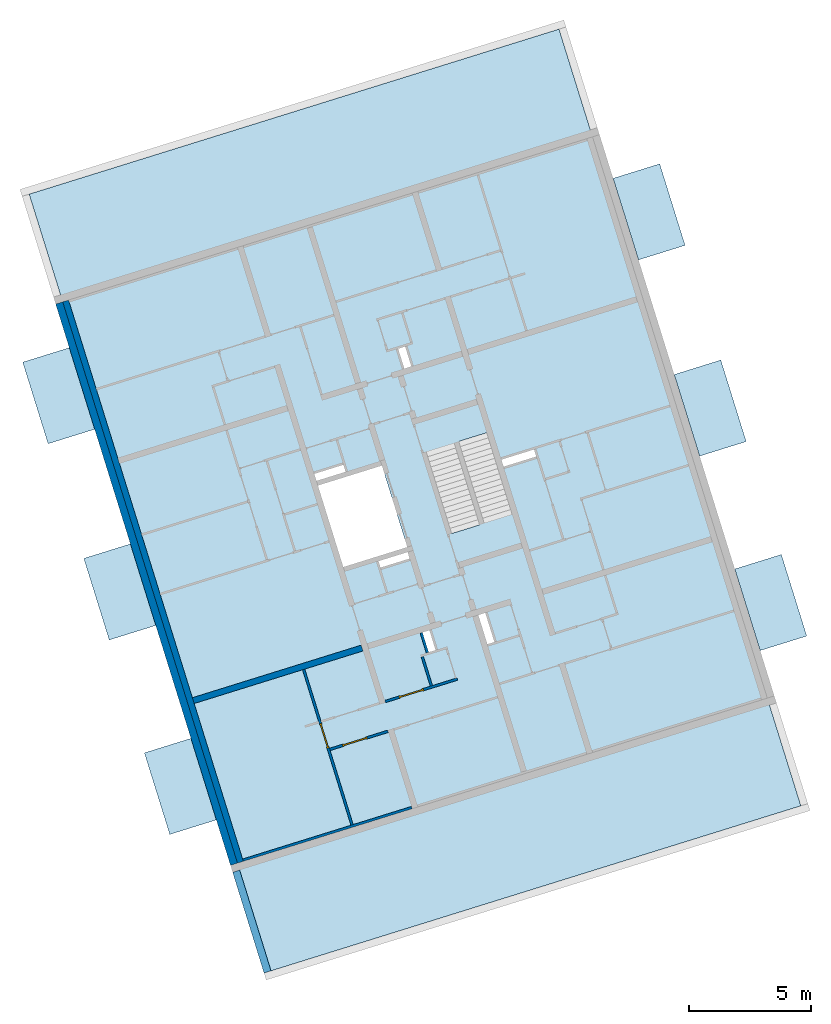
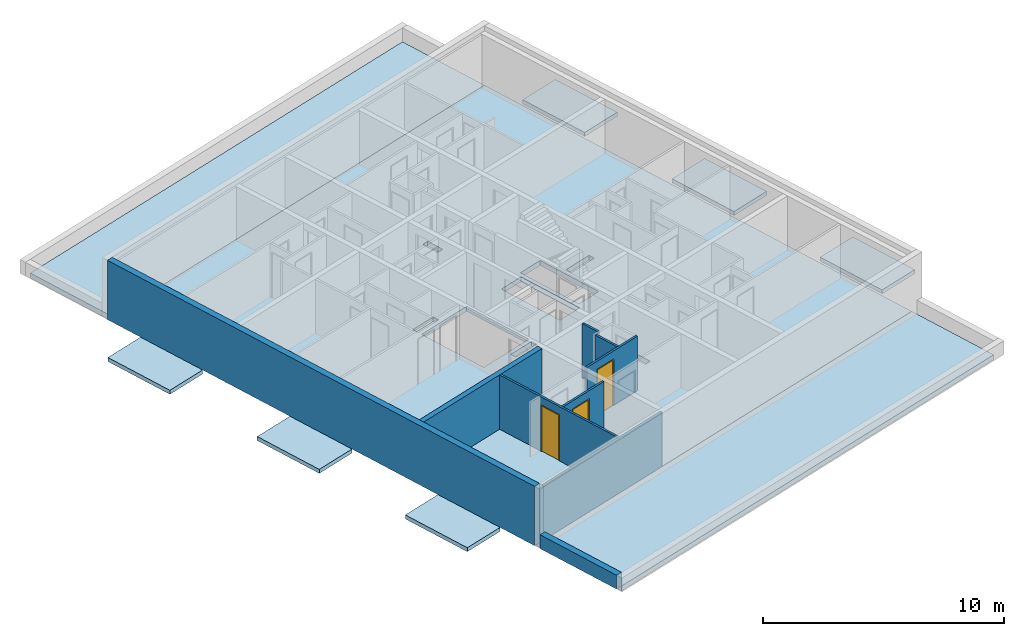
# One storey, part 1 of 9: 10 walls, 9 slabs, 3 doors, 12 openings.
"""IFC4 building model written with IfcOpenShell, lengths in metres."""

from ifc_helpers import new_model, entity, si_unit, converted_unit, direction, frame, origin, place, context, subcontext, project, spatial, indexed_curve, outline, extrude, polygons, source, transform, mapped, material, constituent, constituent_set, type_object, type_shapes, element, fill, save


model = new_model("IFC4")

# Units and contexts
model_context = context("Model", 3, precision=1e-05, world=origin(), true_north=direction((6.12323399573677e-17, 1.0)))
body_context = subcontext(model_context, "Body", "Model", "MODEL_VIEW")
ifc_project = project(units=[si_unit("LENGTHUNIT", "METRE"), si_unit("AREAUNIT", "SQUARE_METRE"), si_unit("VOLUMEUNIT", "CUBIC_METRE"), converted_unit("PLANEANGLEUNIT", "DEGREE", entity("IfcPlaneAngleMeasure", 0.0174532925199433), si_unit("PLANEANGLEUNIT", "RADIAN"), dimensions=[0, 0, 0, 0, 0, 0, 0])], contexts=[model_context])

# Site, building, storey
site_placement = place(None, frame((13.1347999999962, 11.9886000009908, 0.0), z_axis=(0.0, 0.0, 1.0), x_axis=(0.954770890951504, 0.297342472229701, 0.0)))
site = spatial("IfcSite", under=ifc_project, at=site_placement, Name="Schiehaven", CompositionType="ELEMENT")
building_placement = place(site_placement, origin())
building = spatial("IfcBuilding", under=site, at=building_placement, Name="VORM huis", CompositionType="ELEMENT")
storey_placement = place(building_placement, frame((0.0, 0.0, 6.9)))
storey = spatial("IfcBuildingStorey", under=building, at=storey_placement, Name="02 tweede verdieping", CompositionType="ELEMENT", Elevation=6.9)

# Slab, openings
ifc_material_1 = material(Name="beton_gewapend_ihw", Category="Miscellaneous")
slab_type_1 = type_object("IfcSlabType", Name="Floor:28_FL_skelet_vloer 250mm", PredefinedType="FLOOR", material=ifc_material_1)
slab_1_placement = place(storey_placement, origin())
slab_1 = element("IfcSlab", 1, at=slab_1_placement, inside=storey, type_object=slab_type_1, material=ifc_material_1, Name="Constructieve vloer", ObjectType="Vloer", PredefinedType="FLOOR", context=body_context, shape_type="SweptSolid", body=[
    extrude(outline(indexed_curve([(-12.05, -11.375), (12.05, -11.375), (12.05, 11.375), (-12.05, 11.375), (-12.05, -11.375)], self_intersect=False), holes=[indexed_curve([(-1.75000000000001, -3.62500000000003), (-1.75, -0.875000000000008), (1.74999999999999, -0.875000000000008), (1.74999999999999, -3.62500000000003), (-1.75000000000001, -3.62500000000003)], self_intersect=False), indexed_curve([(1.76, 2.22499999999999), (1.76, 1.02499999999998), (-1.54, 1.02499999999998), (-1.54, 2.22499999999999), (1.76, 2.22499999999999)], self_intersect=False), indexed_curve([(-1.75999999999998, 3.62499999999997), (1.54, 3.62499999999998), (1.54, 2.42499999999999), (-1.75999999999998, 2.42499999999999), (-1.75999999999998, 3.62499999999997)], self_intersect=False), indexed_curve([(5.27499999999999, -1.02499999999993), (6.125, -1.02499999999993), (6.12500000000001, -1.32499999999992), (5.275, -1.32499999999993), (5.27499999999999, -1.02499999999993)], self_intersect=False), indexed_curve([(5.27500000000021, 1.37500000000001), (6.52500000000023, 1.37500000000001), (6.52500000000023, 1.07500000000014), (5.27500000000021, 1.07500000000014), (5.27500000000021, 1.37500000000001)], self_intersect=False), indexed_curve([(-0.524999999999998, 5.27500000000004), (-0.224999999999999, 5.27500000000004), (-0.224999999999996, 3.87283572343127), (-0.524999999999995, 3.87283572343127), (-0.524999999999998, 5.27500000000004)], self_intersect=False), indexed_curve([(-6.12500000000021, 1.48400000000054), (-5.2750000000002, 1.48400000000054), (-5.2750000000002, 1.18400000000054), (-6.12500000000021, 1.18400000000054), (-6.12500000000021, 1.48400000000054)], self_intersect=False), indexed_curve([(1.94999999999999, -0.924999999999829), (2.22500000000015, -0.924999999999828), (2.22500000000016, -2.17499999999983), (1.94999999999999, -2.17499999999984), (1.94999999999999, -0.924999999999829)], self_intersect=False), indexed_curve([(-2.25000000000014, -2.37499999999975), (-1.95000000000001, -2.37499999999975), (-1.95, -3.62499999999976), (-2.25000000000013, -3.62499999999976), (-2.25000000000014, -2.37499999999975)], self_intersect=False)]), frame((16.2500000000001, 17.05, -0.249999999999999), z_axis=(0.0, 0.0, 1.0), x_axis=(0.0, -1.0, 0.0)), (0.0, 0.0, 1.0), 0.249999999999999),
])
opening_1_placement = place(slab_1_placement, origin())
element("IfcOpeningElement", 2, at=opening_1_placement, cuts=slab_1, Name="Constructieve vloer", PredefinedType="OPENING", context=body_context, shape_type="SweptSolid", body=[
    extrude(outline(indexed_curve([(-1.74999999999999, -1.37500000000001), (1.75, -1.37500000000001), (1.75, 1.37500000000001), (-1.75, 1.37500000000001), (-1.74999999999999, -1.37500000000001)], self_intersect=False)), frame((14.0, 17.05, -0.249999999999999), z_axis=(0.0, 0.0, 1.0), x_axis=(0.0, -1.0, 0.0)), (0.0, 0.0, 1.0), 0.249999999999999),
])
opening_2_placement = place(slab_1_placement, origin())
element("IfcOpeningElement", 3, at=opening_2_placement, cuts=slab_1, Name="Constructieve vloer", PredefinedType="OPENING", context=body_context, shape_type="SweptSolid", body=[
    extrude(outline(indexed_curve([(-1.65, -0.60000000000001), (1.65, -0.600000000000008), (1.65, 0.600000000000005), (-1.65, 0.600000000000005), (-1.65, -0.60000000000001)], self_intersect=False)), frame((17.8750000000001, 16.94, -0.249999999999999), z_axis=(0.0, 0.0, 1.0), x_axis=(0.0, 1.0, 0.0)), (0.0, 0.0, 1.0), 0.249999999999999),
])
opening_3_placement = place(slab_1_placement, origin())
element("IfcOpeningElement", 4, at=opening_3_placement, cuts=slab_1, Name="Constructieve vloer", PredefinedType="OPENING", context=body_context, shape_type="SweptSolid", body=[
    extrude(outline(indexed_curve([(-0.150000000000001, -0.425000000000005), (0.149999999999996, -0.425000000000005), (0.149999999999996, 0.425000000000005), (-0.150000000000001, 0.425000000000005), (-0.150000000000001, -0.425000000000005)], self_intersect=False)), frame((15.0750000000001, 11.35, -0.249999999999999), z_axis=(0.0, 0.0, 1.0), x_axis=(-1.0, 0.0, 0.0)), (0.0, 0.0, 1.0), 0.249999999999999),
])
opening_4_placement = place(slab_1_placement, origin())
element("IfcOpeningElement", 5, at=opening_4_placement, cuts=slab_1, Name="Constructieve vloer", PredefinedType="OPENING", context=body_context, shape_type="SweptSolid", body=[
    extrude(outline(indexed_curve([(-0.149999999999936, -0.625000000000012), (0.149999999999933, -0.625000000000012), (0.149999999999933, 0.625000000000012), (-0.149999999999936, 0.625000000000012), (-0.149999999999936, -0.625000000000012)], self_intersect=False)), frame((17.4750000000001, 11.1499999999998, -0.249999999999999), z_axis=(0.0, 0.0, 1.0), x_axis=(-1.0, 0.0, 0.0)), (0.0, 0.0, 1.0), 0.249999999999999),
])
opening_5_placement = place(slab_1_placement, origin())
element("IfcOpeningElement", 6, at=opening_5_placement, cuts=slab_1, Name="Constructieve vloer", PredefinedType="OPENING", context=body_context, shape_type="SweptSolid", body=[
    extrude(outline(indexed_curve([(-0.701082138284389, -0.150000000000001), (0.701082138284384, -0.150000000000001), (0.701082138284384, 0.150000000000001), (-0.701082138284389, 0.150000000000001), (-0.701082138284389, -0.150000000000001)], self_intersect=False)), frame((20.8239178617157, 17.425, -0.249999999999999), z_axis=(0.0, 0.0, 1.0), x_axis=(-1.0, 0.0, 0.0)), (0.0, 0.0, 1.0), 0.249999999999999),
])
opening_6_placement = place(slab_1_placement, origin())
element("IfcOpeningElement", 7, at=opening_6_placement, cuts=slab_1, Name="Constructieve vloer", PredefinedType="OPENING", context=body_context, shape_type="SweptSolid", body=[
    extrude(outline(indexed_curve([(-0.149999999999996, -0.425000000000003), (0.150000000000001, -0.425000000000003), (0.149999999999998, 0.425000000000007), (-0.149999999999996, 0.425000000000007), (-0.149999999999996, -0.425000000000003)], self_intersect=False)), frame((17.5840000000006, 22.7500000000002, -0.249999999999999), z_axis=(0.0, 0.0, 1.0), x_axis=(-1.0, 0.0, 0.0)), (0.0, 0.0, 1.0), 0.249999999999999),
])
opening_7_placement = place(slab_1_placement, origin())
element("IfcOpeningElement", 8, at=opening_7_placement, cuts=slab_1, Name="Constructieve vloer", PredefinedType="OPENING", context=body_context, shape_type="SweptSolid", body=[
    extrude(outline(indexed_curve([(-0.625000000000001, -0.137500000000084), (0.625000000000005, -0.137500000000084), (0.625000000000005, 0.137500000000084), (-0.625000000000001, 0.137500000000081), (-0.625000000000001, -0.137500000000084)], self_intersect=False)), frame((14.7000000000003, 14.9624999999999, -0.249999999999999), z_axis=(0.0, 0.0, 1.0), x_axis=(-1.0, 0.0, 0.0)), (0.0, 0.0, 1.0), 0.249999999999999),
])
opening_8_placement = place(slab_1_placement, origin())
element("IfcOpeningElement", 9, at=opening_8_placement, cuts=slab_1, Name="Constructieve vloer", PredefinedType="OPENING", context=body_context, shape_type="SweptSolid", body=[
    extrude(outline(indexed_curve([(-0.625000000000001, -0.150000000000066), (0.625000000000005, -0.150000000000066), (0.625000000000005, 0.150000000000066), (-0.625000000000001, 0.150000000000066), (-0.625000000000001, -0.150000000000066)], self_intersect=False)), frame((13.2500000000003, 19.1500000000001, -0.249999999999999), z_axis=(0.0, 0.0, 1.0), x_axis=(-1.0, 0.0, 0.0)), (0.0, 0.0, 1.0), 0.249999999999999),
])

# Slabs
ifc_material_2 = material(Name="beton_gewapend_prefab-element", Category="Miscellaneous")
slab_type_2 = type_object("IfcSlabType", Name="Floor:23_FL_skelet_balkon 200mm", PredefinedType="FLOOR", material=ifc_material_2)
slab_2_placement = place(storey_placement, origin())
element("IfcSlab", 10, at=slab_2_placement, inside=storey, type_object=slab_type_2, material=ifc_material_2, Name="Balkonvloer", ObjectType="Vloer", PredefinedType="FLOOR", context=body_context, shape_type="SweptSolid", body=[
    extrude(outline(indexed_curve([(-1.75, -0.999999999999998), (1.75000000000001, -0.999999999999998), (1.75, 1.0), (-1.75000000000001, 0.999999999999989), (-1.75, -0.999999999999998)], self_intersect=False)), frame((28.925, 25.475, 0.0), z_axis=(0.0, 0.0, -1.0), x_axis=(0.0, 1.0, 0.0)), (0.0, 0.0, 1.0), 0.2),
])
slab_3_placement = place(storey_placement, origin())
element("IfcSlab", 11, at=slab_3_placement, inside=storey, type_object=slab_type_2, material=ifc_material_2, Name="Balkonvloer", ObjectType="Vloer", PredefinedType="FLOOR", context=body_context, shape_type="SweptSolid", body=[
    extrude(outline(indexed_curve([(-1.75000000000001, -1.0), (1.75, -1.0), (1.75000000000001, 0.999999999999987), (-1.75000000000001, 0.999999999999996), (-1.75000000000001, -1.0)], self_intersect=False)), frame((28.9249999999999, 8.70000000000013, 0.0), z_axis=(0.0, 0.0, -1.0), x_axis=(0.0, 1.0, 0.0)), (0.0, 0.0, 1.0), 0.2),
])
slab_4_placement = place(storey_placement, origin())
element("IfcSlab", 12, at=slab_4_placement, inside=storey, type_object=slab_type_2, material=ifc_material_2, Name="Balkonvloer", ObjectType="Vloer", PredefinedType="FLOOR", context=body_context, shape_type="SweptSolid", body=[
    extrude(outline(indexed_curve([(-1.75000000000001, -1.0), (1.75, -1.0), (1.75000000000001, 0.999999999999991), (-1.75, 1.0), (-1.75000000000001, -1.0)], self_intersect=False)), frame((28.925, 17.05, 0.0), z_axis=(0.0, 0.0, -1.0), x_axis=(0.0, 1.0, 0.0)), (0.0, 0.0, 1.0), 0.2),
])
slab_5_placement = place(storey_placement, origin())
element("IfcSlab", 13, at=slab_5_placement, inside=storey, type_object=slab_type_2, material=ifc_material_2, Name="Balkonvloer", ObjectType="Vloer", PredefinedType="FLOOR", context=body_context, shape_type="SweptSolid", body=[
    extrude(outline(indexed_curve([(-1.75000000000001, -0.999999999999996), (1.75000000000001, -0.999999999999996), (1.75, 1.0), (-1.75000000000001, 0.999999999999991), (-1.75000000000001, -0.999999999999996)], self_intersect=False)), frame((3.57500000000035, 25.4750000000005, 0.0), z_axis=(0.0, 0.0, -1.0), x_axis=(0.0, 1.0, 0.0)), (0.0, 0.0, 1.0), 0.2),
])
slab_6_placement = place(storey_placement, origin())
element("IfcSlab", 14, at=slab_6_placement, inside=storey, type_object=slab_type_2, material=ifc_material_2, Name="Balkonvloer", ObjectType="Vloer", PredefinedType="FLOOR", context=body_context, shape_type="SweptSolid", body=[
    extrude(outline(indexed_curve([(-1.75000000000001, -0.999999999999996), (1.75000000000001, -0.999999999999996), (1.75000000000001, 0.99999999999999), (-1.75000000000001, 1.0), (-1.75000000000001, -0.999999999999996)], self_intersect=False)), frame((3.57500000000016, 8.69999999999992, 0.0), z_axis=(0.0, 0.0, -1.0), x_axis=(0.0, 1.0, 0.0)), (0.0, 0.0, 1.0), 0.2),
])
slab_7_placement = place(storey_placement, origin())
element("IfcSlab", 15, at=slab_7_placement, inside=storey, type_object=slab_type_2, material=ifc_material_2, Name="Balkonvloer", ObjectType="Vloer", PredefinedType="FLOOR", context=body_context, shape_type="SweptSolid", body=[
    extrude(outline(indexed_curve([(-1.75000000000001, -0.999999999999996), (1.75000000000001, -0.999999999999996), (1.75000000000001, 0.99999999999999), (-1.75000000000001, 1.0), (-1.75000000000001, -0.999999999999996)], self_intersect=False)), frame((3.57500000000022, 17.0499999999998, 0.0), z_axis=(0.0, 0.0, -1.0), x_axis=(0.0, 1.0, 0.0)), (0.0, 0.0, 1.0), 0.2),
])
slab_type_3 = type_object("IfcSlabType", Name="Floor:28_FL_skelet_dakterrasvloer 250mm", PredefinedType="ROOF", material=ifc_material_1)
slab_8_placement = place(storey_placement, origin())
element("IfcSlab", 16, at=slab_8_placement, inside=storey, type_object=slab_type_3, material=ifc_material_1, Name="Begaanbare dakvloer", ObjectType="Vloer", PredefinedType="ROOF", context=body_context, shape_type="SweptSolid", body=[
    extrude(outline(indexed_curve([(-2.3125000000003, -11.3750000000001), (2.3125000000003, -11.3750000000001), (2.3125000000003, 11.3750000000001), (-2.3125000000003, 11.3750000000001), (-2.3125000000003, -11.3750000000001)], self_intersect=False)), frame((16.25, 2.68750000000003, 0.0), z_axis=(0.0, 0.0, -1.0), x_axis=(0.0, 1.0, 0.0)), (0.0, 0.0, 1.0), 0.249999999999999),
])
slab_9_placement = place(storey_placement, origin())
element("IfcSlab", 17, at=slab_9_placement, inside=storey, type_object=slab_type_3, material=ifc_material_1, Name="Begaanbare dakvloer", ObjectType="Vloer", PredefinedType="ROOF", context=body_context, shape_type="SweptSolid", body=[
    extrude(outline(indexed_curve([(-2.31249999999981, -11.375), (2.31249999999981, -11.375), (2.31249999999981, 11.375), (-2.31249999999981, 11.375), (-2.31249999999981, -11.375)], self_intersect=False)), frame((16.2500000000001, 31.4125, 0.0), z_axis=(0.0, 0.0, -1.0), x_axis=(0.0, 1.0, 0.0)), (0.0, 0.0, 1.0), 0.249999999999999),
])

# Walls
wall_type_1 = type_object("IfcWallType", Name="Basic Wall:28_WA_skelet_wand 250mm_gen", PredefinedType="STANDARD")
wall_1_placement = place(storey_placement, frame((5.0, 5.0, 0.0), z_axis=(0.0, 0.0, 1.0), x_axis=(0.0, 1.0, 0.0)))
element("IfcWall", 18, at=wall_1_placement, inside=storey, type_object=wall_type_1, material=ifc_material_1, Name="Constructieve wand", ObjectType="Wand", PredefinedType="NOTDEFINED", context=body_context, shape_type="SweptSolid", body=[
    extrude(outline(indexed_curve([(24.1, 0.125), (4.21737840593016e-16, 0.125), (-4.21737840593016e-16, -0.125), (24.1, -0.125), (24.1, 0.125)], self_intersect=False)), origin(), (0.0, 0.0, 1.0), 2.75),
])
ifc_material_3 = material(Name="ntb_ntb_ntb", Category="Miscellaneous")
wall_type_2 = type_object("IfcWallType", Name="Basic Wall:21_WA_gevel_binnenspouwwand 100mm_gen", PredefinedType="STANDARD")
wall_2_placement = place(storey_placement, frame((5.12500000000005, 5.05000000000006, 0.0)))
element("IfcWall", 19, at=wall_2_placement, inside=storey, type_object=wall_type_2, material=ifc_material_3, Name="Binnenspouwblad", ObjectType="Wand", PredefinedType="NOTDEFINED", context=body_context, shape_type="SweptSolid", body=[
    extrude(outline(indexed_curve([(7.24999999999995, 0.0499999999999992), (-1.84844170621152e-16, 0.0499999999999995), (1.84844170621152e-16, -0.0499999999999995), (7.24999999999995, -0.0499999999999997), (7.24999999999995, 0.0499999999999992)], self_intersect=False)), origin(), (0.0, 0.0, 1.0), 2.75),
])
wall_type_3 = type_object("IfcWallType", Name="Basic Wall: 300mm_gen", PredefinedType="STANDARD")
wall_3_placement = place(storey_placement, frame((4.72500000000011, 5.0, 0.0), z_axis=(0.0, 0.0, 1.0), x_axis=(0.0, 1.0, 0.0)))
element("IfcWall", 20, at=wall_3_placement, inside=storey, type_object=wall_type_3, material=ifc_material_3, Name="Gevelwand", ObjectType="Wand", PredefinedType="NOTDEFINED", context=body_context, shape_type="SweptSolid", body=[
    extrude(outline(indexed_curve([(24.1, 0.15), (-1.57429718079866e-16, 0.15), (1.57429718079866e-16, -0.15), (24.1, -0.15), (24.1, 0.15)], self_intersect=False)), origin(), (0.0, 0.0, 1.0), 3.0),
])
wall_4_placement = place(storey_placement, frame((4.72500000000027, 4.70000000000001, 0.0), z_axis=(0.0, 0.0, 1.0), x_axis=(0.0, -1.0, 0.0)))
element("IfcWall", 21, at=wall_4_placement, inside=storey, type_object=wall_type_3, material=ifc_material_3, Name="Gevelwand", ObjectType="Wand", PredefinedType="NOTDEFINED", context=body_context, shape_type="SweptSolid", body=[
    extrude(outline(indexed_curve([(4.32500000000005, 0.15), (4.90912360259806e-17, 0.15), (-4.90912360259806e-17, -0.15), (4.32500000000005, -0.15), (4.32500000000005, 0.15)], self_intersect=False)), origin(), (0.0, 0.0, 1.0), 0.700000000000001),
])
wall_type_4 = type_object("IfcWallType", Name="Basic Wall:22_WA_afbouw_binnenwand 250mm_gen", PredefinedType="STANDARD")
wall_5_placement = place(storey_placement, frame((12.3750000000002, 11.8999999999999, 0.0), z_axis=(0.0, 0.0, 1.0), x_axis=(-1.0, 0.0, 0.0)))
element("IfcWall", 22, at=wall_5_placement, inside=storey, type_object=wall_type_4, material=ifc_material_3, Name="Binnenwand", ObjectType="Wand", PredefinedType="NOTDEFINED", context=body_context, shape_type="SweptSolid", body=[
    extrude(outline(indexed_curve([(7.24999999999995, 0.124999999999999), (3.52198535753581e-16, 0.125), (-3.52198535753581e-16, -0.125), (7.24999999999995, -0.125000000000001), (7.24999999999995, 0.124999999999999)], self_intersect=False)), origin(), (0.0, 0.0, 1.0), 2.75),
])

# Wall, openings, door
wall_type_5 = type_object("IfcWallType", Name="Basic Wall:22_WA_afbouw_binnenwand 100mm_gen", PredefinedType="STANDARD")
wall_6_placement = place(storey_placement, frame((12.6250000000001, 9.52499999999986, 0.0)))
wall_6 = element("IfcWall", 23, at=wall_6_placement, inside=storey, type_object=wall_type_5, material=ifc_material_3, Name="Binnenwand", ObjectType="Wand", PredefinedType="NOTDEFINED", context=body_context, shape_type="Tessellation", body=[
    polygons([(1.65, -0.0500000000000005, 2.34999999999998), (1.65, -0.0500000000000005, 1.08286712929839e-15), (3.10000000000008, -0.0500000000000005, 1.08286712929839e-15), (3.10000000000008, -0.0500000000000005, 2.75), (1.0100169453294e-15, -0.0500000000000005, 2.75), (1.0100169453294e-15, -0.0500000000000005, 1.08286712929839e-15), (0.600000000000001, -0.0500000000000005, 1.08286712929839e-15), (0.600000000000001, -0.0500000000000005, 2.34999999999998), (3.10000000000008, 0.0499999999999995, 1.08286712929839e-15), (2.05000000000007, 0.0499999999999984, 0.0), (1.95000000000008, 0.0499999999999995, 0.0), (1.65, 0.0499999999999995, 1.08286712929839e-15), (1.65, 0.0499999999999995, 2.34999999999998), (0.599999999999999, 0.0499999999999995, 2.34999999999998), (0.600000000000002, 0.0499999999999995, 1.08286712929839e-15), (1.56353890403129e-15, 0.0499999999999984, 1.08286712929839e-15), (1.56353890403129e-15, 0.0499999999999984, 2.75), (1.95000000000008, 0.0499999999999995, 2.75), (2.05000000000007, 0.0499999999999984, 2.75), (3.00000000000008, 0.0499999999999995, 2.75), (3.10000000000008, 0.0499999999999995, 2.75), (3.10000000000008, 0.0499999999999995, 2.34999999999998)], [[[1, 2, 3, 4, 5, 6, 7, 8]], [[9, 10, 11, 12, 13, 14, 15, 16, 17, 18, 19, 20, 21, 22]], [[7, 6, 16, 15]], [[5, 4, 21, 20, 19, 18, 17]], [[6, 5, 17, 16]], [[15, 14, 8, 7]], [[13, 12, 2, 1]], [[14, 13, 1, 8]], [[4, 3, 9, 22, 21]], [[3, 2, 12, 11, 10, 9]]], closed=True),
])
opening_9_placement = place(wall_6_placement, origin())
element("IfcOpeningElement", 24, at=opening_9_placement, cuts=wall_6, Name="Binnendeur", PredefinedType="OPENING", context=body_context, shape_type="SweptSolid", body=[
    extrude(outline(indexed_curve([(-0.0499999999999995, -1.17499999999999), (0.0499999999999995, -1.17499999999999), (0.0499999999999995, 1.17499999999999), (-0.0499999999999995, 1.17499999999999), (-0.0499999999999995, -1.17499999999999)], self_intersect=False)), frame((3.05000000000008, 0.0499999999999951, 1.17499999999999), z_axis=(0.0, 1.0, 0.0), x_axis=(-1.0, 0.0, 0.0)), (0.0, 0.0, 1.0), 1.05),
])
opening_10_placement = place(wall_6_placement, frame((1.65, 0.0499999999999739, 0.0)))
opening_10 = element("IfcOpeningElement", 25, at=opening_10_placement, cuts=wall_6, Name="Binnendeur", PredefinedType="OPENING", context=body_context, shape_type="SweptSolid", body=[
    extrude(outline(indexed_curve([(2.34999999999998, 1.05), (0.0, 1.05), (0.0, 1.35358391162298e-15), (2.34999999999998, 1.35358391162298e-15), (2.34999999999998, 1.05)], self_intersect=False)), frame((0.0, 0.0, 0.0), z_axis=(0.0, -1.0, 0.0), x_axis=(0.0, 0.0, 1.0)), (0.0, 0.0, 1.0), 0.1),
])
ifc_material_4 = material(Name="PD_a_binnenwandopeningen", Category="Miscellaneous")
ifc_constituent_1 = constituent(ifc_material_4, Name="PD_a_binnenwandopeningen", Category="Miscellaneous")
ifc_material_5 = material(Name="metaal_aluminium_ntb", Category="Miscellaneous")
ifc_constituent_2 = constituent(ifc_material_5, Name="metaal_aluminium_ntb", Category="Miscellaneous")
ifc_constituent_set_1 = constituent_set(constituents=[ifc_constituent_1, ifc_constituent_2])
door_type = type_object("IfcDoorType", Name="32_DO_binnendeur enkel:binnendeur", OperationType="REVOLVING", PredefinedType="DOOR")
shared_shape_1 = source(origin(), body_context, "Body", "SweptSolid", [
    extrude(outline(indexed_curve([(-1.16249999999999, -0.525000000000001), (1.18749999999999, -0.525), (1.18749999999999, 0.525), (-1.16249999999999, 0.525), (-1.16249999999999, 0.475), (1.13749999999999, 0.475), (1.13749999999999, -0.475), (-1.16249999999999, -0.475), (-1.16249999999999, -0.525000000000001)], self_intersect=False)), frame((0.525000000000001, 0.0, 1.16249999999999), z_axis=(0.0, 1.0, 0.0), x_axis=(0.0, 0.0, 1.0)), (0.0, 0.0, 1.0), 0.1),
    extrude(outline(indexed_curve([(-0.025, -0.475), (0.025, -0.475), (0.025, 0.475), (-0.025, 0.475), (-0.025, -0.475)], self_intersect=False)), frame((0.525000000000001, 0.0499999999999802, 0.0), z_axis=(0.0, 0.0, 1.0), x_axis=(0.0, 1.0, 0.0)), (0.0, 0.0, 1.0), 2.29999999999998),
])
type_shapes(door_type, [shared_shape_1])
door_1_placement = place(opening_10_placement, frame((0.0, 0.0, 0.0), z_axis=(0.0, 0.0, 1.0), x_axis=(-1.0, 0.0, 0.0)))
door_1 = element("IfcDoor", 26, at=door_1_placement, inside=storey, type_object=door_type, material=ifc_constituent_set_1, Name="Binnendeur", ObjectType="Deur", OperationType="REVOLVING", OverallHeight=2.34999999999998, OverallWidth=1.05, PredefinedType="DOOR", context=body_context, shape_type="MappedRepresentation", body=[
    mapped(shared_shape_1, transform((0.0, 0.0, 0.0), scale=1.0)),
])
fill(opening_10, door_1)

# Wall
wall_7_placement = place(storey_placement, frame((14.6250000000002, 10.8249999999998, 0.0), z_axis=(0.0, 0.0, 1.0), x_axis=(0.0, -1.0, 0.0)))
element("IfcWall", 27, at=wall_7_placement, inside=storey, type_object=wall_type_5, material=ifc_material_3, Name="Binnenwand", ObjectType="Wand", PredefinedType="NOTDEFINED", context=body_context, shape_type="SweptSolid", body=[
    extrude(outline(indexed_curve([(1.25, 0.0499999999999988), (-7.54991624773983e-16, 0.0499999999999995), (7.54991624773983e-16, -0.0499999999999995), (1.25, -0.0500000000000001), (1.25, 0.0499999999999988)], self_intersect=False)), origin(), (0.0, 0.0, 1.0), 2.75),
])

# Wall, opening, door
wall_8_placement = place(storey_placement, frame((12.3750000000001, 8.32499999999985, 0.0), z_axis=(0.0, 0.0, 1.0), x_axis=(-1.0, 0.0, 0.0)))
wall_8 = element("IfcWall", 28, at=wall_8_placement, inside=storey, type_object=wall_type_5, material=ifc_material_3, Name="Binnenwand", ObjectType="Wand", PredefinedType="NOTDEFINED", context=body_context, shape_type="Tessellation", body=[
    polygons([(-6.61056801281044e-16, -0.0500000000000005, 1.08286712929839e-15), (0.899999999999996, -0.0500000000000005, 1.08286712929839e-15), (0.899999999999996, -0.0500000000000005, 2.34999999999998), (1.95, -0.0500000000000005, 2.34999999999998), (1.95, -0.0500000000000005, 1.08286712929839e-15), (2.50000000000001, -0.0500000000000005, 1.08286712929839e-15), (2.50000000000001, -0.0500000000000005, 2.75), (-6.61056801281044e-16, -0.0500000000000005, 2.75), (0.899999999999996, 0.0499999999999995, 2.34999999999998), (0.899999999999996, 0.0499999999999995, 1.08286712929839e-15), (-5.30330896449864e-16, 0.0499999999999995, 1.08286712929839e-15), (-5.30330896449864e-16, 0.0499999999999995, 2.75), (2.50000000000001, 0.0499999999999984, 2.75), (2.50000000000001, 0.0499999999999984, 1.08286712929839e-15), (1.95, 0.0499999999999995, 1.08286712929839e-15), (1.95, 0.0499999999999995, 2.34999999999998)], [[[1, 2, 3, 4, 5, 6, 7, 8]], [[9, 10, 11, 12, 13, 14, 15, 16]], [[11, 10, 2, 1]], [[8, 7, 13, 12]], [[1, 8, 12, 11]], [[5, 4, 16, 15]], [[3, 2, 10, 9]], [[4, 3, 9, 16]], [[7, 6, 14, 13]], [[15, 14, 6, 5]]], closed=True),
])
opening_11_placement = place(wall_8_placement, frame((1.95, 0.0499999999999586, 0.0)))
opening_11 = element("IfcOpeningElement", 29, at=opening_11_placement, cuts=wall_8, Name="Binnendeur", PredefinedType="OPENING", context=body_context, shape_type="SweptSolid", body=[
    extrude(outline(indexed_curve([(2.34999999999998, 1.35358391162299e-15), (2.34999999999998, 1.05), (0.0, 1.05), (0.0, 1.35358391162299e-15), (2.34999999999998, 1.35358391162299e-15)], self_intersect=False)), frame((0.0, 0.0, 0.0), z_axis=(0.0, -1.0, 0.0), x_axis=(0.0, 0.0, 1.0)), (0.0, 0.0, 1.0), 0.1),
])
ifc_constituent_3 = constituent(ifc_material_4, Name="PD_a_binnenwandopeningen", Category="Miscellaneous")
ifc_constituent_4 = constituent(ifc_material_5, Name="metaal_aluminium_ntb", Category="Miscellaneous")
ifc_constituent_set_2 = constituent_set(constituents=[ifc_constituent_3, ifc_constituent_4])
shared_shape_2 = source(origin(), body_context, "Body", "SweptSolid", [
    extrude(outline(indexed_curve([(0.475, -1.16249999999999), (0.525, -1.16249999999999), (0.525, 1.18749999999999), (-0.525, 1.18749999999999), (-0.525, -1.16249999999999), (-0.475, -1.16249999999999), (-0.475, 1.13749999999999), (0.475, 1.13749999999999), (0.475, -1.16249999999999)], self_intersect=False)), frame((0.525000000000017, 0.100000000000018, 1.16249999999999), z_axis=(0.0, -1.0, 0.0), x_axis=(1.0, 0.0, 0.0)), (0.0, 0.0, 1.0), 0.1),
    extrude(outline(indexed_curve([(-0.475, -0.025), (0.475, -0.025), (0.475, 0.025), (-0.475, 0.025), (-0.475, -0.025)], self_intersect=False)), frame((0.525000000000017, 0.0499999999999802, 0.0)), (0.0, 0.0, 1.0), 2.29999999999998),
])
door_2_placement = place(opening_11_placement, frame((0.0, 0.0, 0.0), z_axis=(0.0, 0.0, 1.0), x_axis=(-1.0, 0.0, 0.0)))
door_2 = element("IfcDoor", 30, at=door_2_placement, inside=storey, type_object=door_type, material=ifc_constituent_set_2, Name="Binnendeur", ObjectType="Deur", OperationType="REVOLVING", OverallHeight=2.34999999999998, OverallWidth=1.05, PredefinedType="DOOR", context=body_context, shape_type="MappedRepresentation", body=[
    mapped(shared_shape_2, transform((0.0, 0.0, 0.0), scale=1.0)),
])
fill(opening_11, door_2)

wall_9_placement = place(storey_placement, frame((9.82500000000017, 11.7749999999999, 0.0), z_axis=(0.0, 0.0, 1.0), x_axis=(0.0, -1.0, 0.0)))
wall_9 = element("IfcWall", 31, at=wall_9_placement, inside=storey, type_object=wall_type_5, material=ifc_material_3, Name="Binnenwand", ObjectType="Wand", PredefinedType="NOTDEFINED", context=body_context, shape_type="Tessellation", body=[
    polygons([(2.16573425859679e-15, -0.0500000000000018, 1.08286712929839e-15), (2.19999999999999, -0.0500000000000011, 0.0), (2.29999999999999, -0.0500000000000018, 0.0), (2.32500000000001, -0.0500000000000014, 1.08286712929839e-15), (2.32500000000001, -0.0500000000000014, 2.34999999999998), (3.37500000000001, -0.0500000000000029, 2.34999999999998), (3.37500000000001, -0.0500000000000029, 1.08286712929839e-15), (6.675, -0.0500000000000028, 1.08286712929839e-15), (6.675, -0.0500000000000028, 2.75), (2.29999999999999, -0.0500000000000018, 2.75), (2.19999999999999, -0.0500000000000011, 2.75), (2.16573425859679e-15, -0.0500000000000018, 2.75), (2.32500000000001, 0.0499999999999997, 2.34999999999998), (2.32500000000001, 0.0499999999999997, 1.08286712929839e-15), (2.29999999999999, 0.0499999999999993, 0.0), (2.19999999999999, 0.05, 0.0), (2.16573425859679e-15, 0.0499999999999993, 1.08286712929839e-15), (2.16573425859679e-15, 0.0499999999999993, 2.75), (2.19999999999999, 0.05, 2.75), (2.29999999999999, 0.0499999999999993, 2.75), (3.4, 0.0499999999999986, 2.75), (3.5, 0.0500000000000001, 2.75), (6.67499999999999, 0.0499999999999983, 2.75), (6.67499999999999, 0.0499999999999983, 1.08286712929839e-15), (3.5, 0.0500000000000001, 0.0), (3.4, 0.0499999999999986, 0.0), (3.37500000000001, 0.0499999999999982, 1.08286712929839e-15), (3.37500000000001, 0.0499999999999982, 2.34999999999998)], [[[1, 2, 3, 4, 5, 6, 7, 8, 9, 10, 11, 12]], [[13, 14, 15, 16, 17, 18, 19, 20, 21, 22, 23, 24, 25, 26, 27, 28]], [[17, 16, 15, 14, 4, 3, 2, 1]], [[9, 8, 24, 23]], [[12, 11, 10, 9, 23, 22, 21, 20, 19, 18]], [[1, 12, 18, 17]], [[7, 6, 28, 27]], [[5, 4, 14, 13]], [[6, 5, 13, 28]], [[27, 26, 25, 24, 8, 7]]], closed=True),
])
opening_12_placement = place(wall_9_placement, frame((2.32500000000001, -0.0500000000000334, 0.0)))
opening_12 = element("IfcOpeningElement", 32, at=opening_12_placement, cuts=wall_9, Name="Binnendeur", PredefinedType="OPENING", context=body_context, shape_type="SweptSolid", body=[
    extrude(outline(indexed_curve([(2.34999999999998, 1.05), (0.0, 1.05), (0.0, 2.70716782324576e-16), (2.34999999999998, 2.70716782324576e-16), (2.34999999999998, 1.05)], self_intersect=False)), frame((0.0, 0.0, 0.0), z_axis=(0.0, 1.0, 0.0), x_axis=(0.0, 0.0, 1.0)), (0.0, 0.0, 1.0), 0.1),
])
ifc_constituent_5 = constituent(ifc_material_4, Name="PD_a_binnenwandopeningen", Category="Miscellaneous")
ifc_constituent_6 = constituent(ifc_material_5, Name="metaal_aluminium_ntb", Category="Miscellaneous")
ifc_constituent_set_3 = constituent_set(constituents=[ifc_constituent_5, ifc_constituent_6])
door_3_placement = place(opening_12_placement, origin())
door_3 = element("IfcDoor", 33, at=door_3_placement, inside=storey, type_object=door_type, material=ifc_constituent_set_3, Name="Binnendeur", ObjectType="Deur", OperationType="REVOLVING", OverallHeight=2.34999999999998, OverallWidth=1.05, PredefinedType="DOOR", context=body_context, shape_type="MappedRepresentation", body=[
    mapped(shared_shape_1, transform((0.0, 0.0, 0.0), scale=1.0)),
])
fill(opening_12, door_3)

# Wall
wall_10_placement = place(storey_placement, frame((14.8750000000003, 11.7749999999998, 0.0), z_axis=(0.0, 0.0, 1.0), x_axis=(0.0, -1.0, 0.0)))
element("IfcWall", 34, at=wall_10_placement, inside=storey, type_object=wall_type_5, material=ifc_material_3, Name="Binnenwand", ObjectType="Wand", PredefinedType="NOTDEFINED", context=body_context, shape_type="SweptSolid", body=[
    extrude(outline(indexed_curve([(0.850000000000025, 0.0499999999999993), (-7.54991624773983e-16, 0.0499999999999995), (7.54991624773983e-16, -0.0499999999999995), (0.850000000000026, -0.0499999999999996), (0.850000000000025, 0.0499999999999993)], self_intersect=False)), origin(), (0.0, 0.0, 1.0), 2.75),
])

save(model, "model.ifc")
